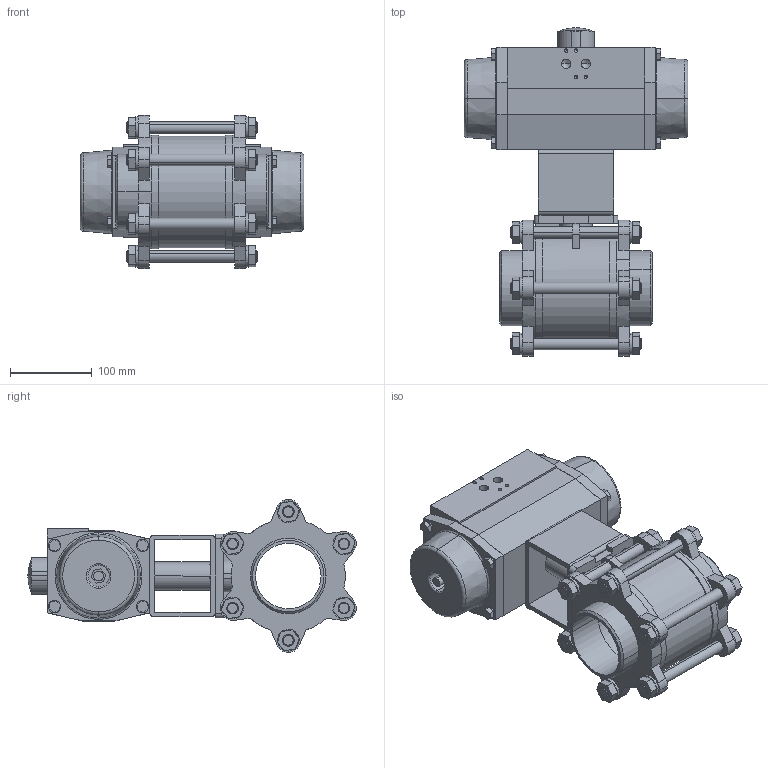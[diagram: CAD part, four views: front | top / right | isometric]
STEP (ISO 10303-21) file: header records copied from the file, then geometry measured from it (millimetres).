
FILE_DESCRIPTION (( 'STEP AP214' ), '1' );
FILE_NAME ('A13 DN80-3 BW + AP4D.STEP', '2012-04-23T09:20:27', ( '' ), ( '' ), 'SwSTEP 2.0', 'SolidWorks 2011', '' );
FILE_SCHEMA (( 'AUTOMOTIVE_DESIGN' ));
Length unit declared in the file: millimetre
Products named in the file (7): Brugstuk simplified_YB10080F10F10-4; AP4_Default<As Machined>; A13 DN80 Buttweld; Draadeind DN80x160; A13 Flens Buttweld DN80; A13 KK DN80 PN63; A13 DN80-3 BW + AP4D
Assembly tree (12 placements, depth 3):
  A13 DN80-3 BW + AP4D
    AP4_Default<As Machined>
    A13 DN80 Buttweld
      Draadeind DN80x160  x6
      A13 Flens Buttweld DN80  x2
      A13 KK DN80 PN63
    Brugstuk simplified_YB10080F10F10-4
Bounding box: 273.5 x 401.19 x 187 mm (x, y, z)
Volume: 5235188.6 mm3; surface area: 549267 mm2
Topology: 34 solids, 34 shells, 867 faces, 2021 edges, 1261 vertices
Faces by surface type: plane 495, cylinder 280, cone 78, torus 12, sphere 2
Entity records: 17991 total; most frequent: DIRECTION 2788, CARTESIAN_POINT 2676, ORIENTED_EDGE 2478, EDGE_CURVE 1239, AXIS2_PLACEMENT_3D 1003, VERTEX_POINT 791, VECTOR 782, LINE 782
